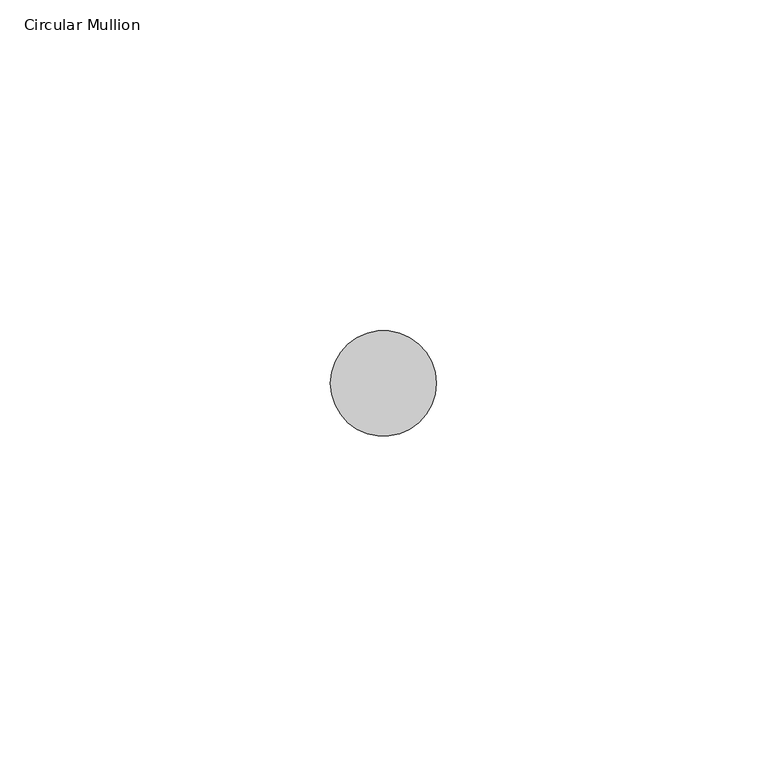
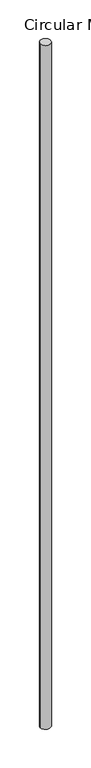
"""IFC4 building model written with IfcOpenShell, lengths in millimetres: member geometry, Circular Mullion : ARQ_HERR_16mm."""

from ifc_helpers import new_model, si_unit, point, frame, origin, origin_2d, place, context, project, spatial, circle_curve, trimmed, segment, composite_curve, outline, extrude, source, transform, mapped, element, save


def circular_mullion_096046af(model_context):
    return source(origin(), model_context, "Body", "SweptSolid", [
        extrude(outline(composite_curve([segment(trimmed(circle_curve(origin_2d(), 8.0), [point((8.0, 0.0))], [point((-8.0, 0.0))], False, "CARTESIAN"), True, "CONTINUOUS"), segment(trimmed(circle_curve(origin_2d(), 8.0), [point((-8.0, 0.0))], [point((8.0, 0.0))], False, "CARTESIAN"), True, "CONTINUOUS")], self_intersect=False)), frame((0.0, 0.0, -1115.2700874), z_axis=(0.0, 0.0, 1.0), x_axis=(1.0, 0.0, 0.0)), (0.0, 0.0, 1.0), 1115.2700874),
    ])


if __name__ == "__main__":
    model = new_model("IFC4")
    model_context = context("Model", 3, world=origin())
    ifc_project = project(units=[si_unit("LENGTHUNIT", "METRE", prefix="MILLI")], contexts=[model_context])
    site = spatial("IfcSite", under=ifc_project)
    building = spatial("IfcBuilding", under=site)
    placement = place(None, origin())
    circular_mullion_shape = circular_mullion_096046af(model_context)
    element("IfcMember", 1, ObjectType="Circular Mullion : ARQ_HERR_16mm", at=placement, inside=building, context=model_context, shape_type="MappedRepresentation", body=[
        mapped(circular_mullion_shape, transform((0.0, 0.0, 0.0), x_axis=(1.0, 0.0, 0.0), y_axis=(0.0, 1.0, 0.0), z_axis=(0.0, 0.0, 1.0))),
    ])
    save(model, "model.ifc")
